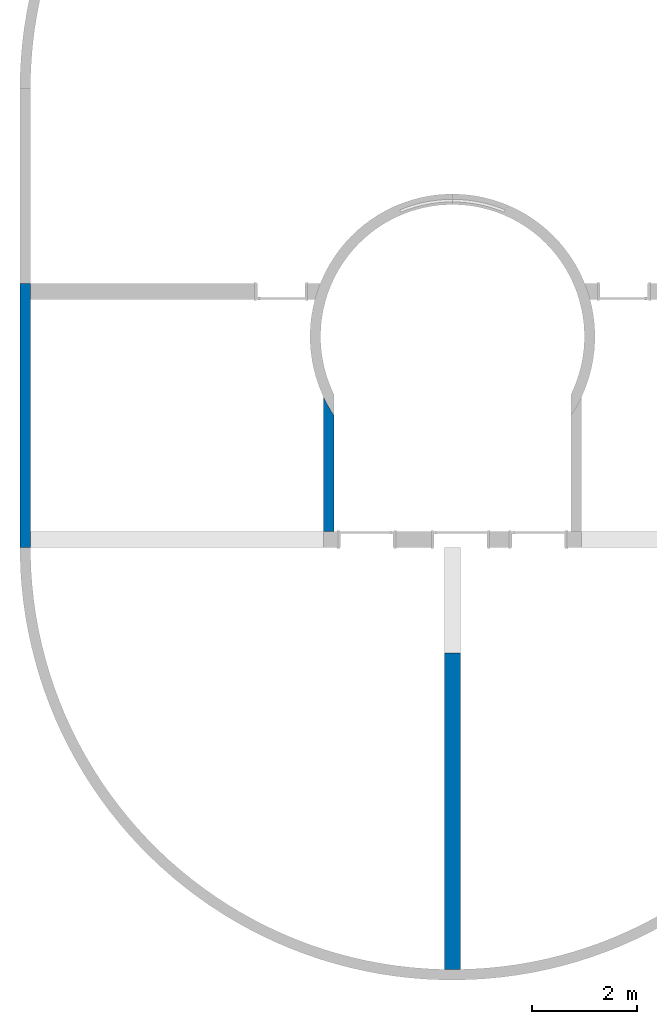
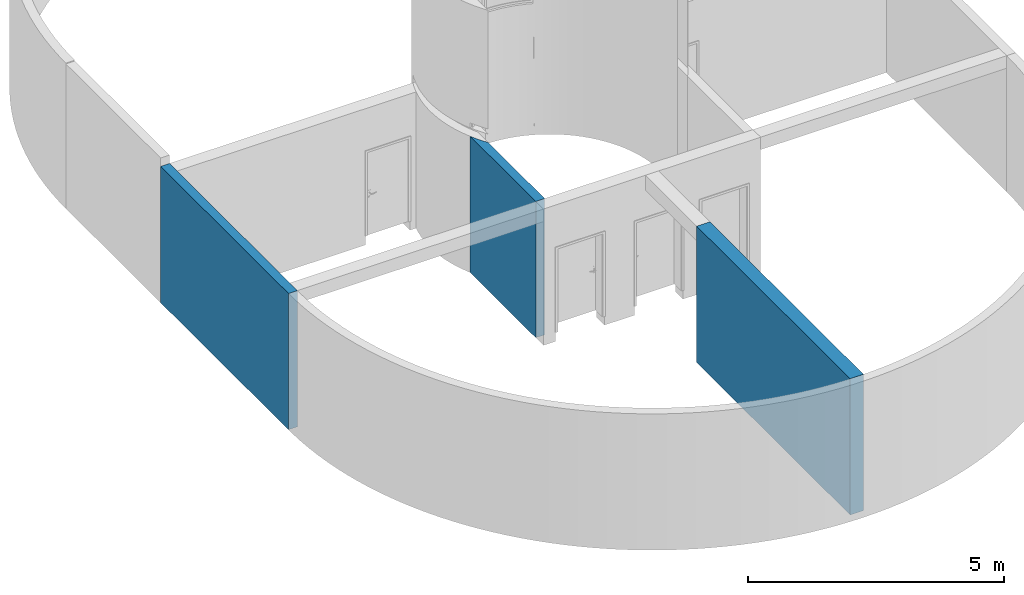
# One storey, part 2 of 8: 3 walls.
"""IFC4 building model written with IfcOpenShell, lengths in millimetres."""

from ifc_helpers import new_model, entity, si_unit, converted_unit, derived_unit, direction, frame, origin_with_axes, place, context, subcontext, project, spatial, polygons, material, constituent, constituent_set, type_object, element, save


model = new_model("IFC4")

# Units and contexts
model_context = context("Model", 3, precision=0.01, world=origin_with_axes(), true_north=direction((0.0, 1.0)))
body_context = subcontext(model_context, "Body", "Model", "MODEL_VIEW")
ifc_project = project(units=[si_unit("LENGTHUNIT", "METRE", prefix="MILLI"), si_unit("AREAUNIT", "SQUARE_METRE"), si_unit("VOLUMEUNIT", "CUBIC_METRE"), converted_unit("PLANEANGLEUNIT", "DEGREE", entity("IfcPlaneAngleMeasure", 0.0174532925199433), si_unit("PLANEANGLEUNIT", "RADIAN"), dimensions=[0, 0, 0, 0, 0, 0, 0]), converted_unit("TIMEUNIT", "Year", entity("IfcTimeMeasure", 31557600.0), si_unit("TIMEUNIT", "SECOND"), dimensions=[0, 0, 1, 0, 0, 0, 0]), si_unit("MASSUNIT", "GRAM", prefix="KILO"), si_unit("THERMODYNAMICTEMPERATUREUNIT", "DEGREE_CELSIUS"), si_unit("LUMINOUSINTENSITYUNIT", "LUMEN"), si_unit("ENERGYUNIT", "JOULE", prefix="MEGA"), derived_unit("THERMALCONDUCTANCEUNIT", [(si_unit("POWERUNIT", "WATT"), 1), (si_unit("LENGTHUNIT", "METRE"), -1), (si_unit("THERMODYNAMICTEMPERATUREUNIT", "KELVIN"), -1)]), derived_unit("SPECIFICHEATCAPACITYUNIT", [(si_unit("ENERGYUNIT", "JOULE"), 1), (si_unit("MASSUNIT", "GRAM", prefix="KILO"), -1), (si_unit("THERMODYNAMICTEMPERATUREUNIT", "KELVIN"), -1)]), derived_unit("MASSDENSITYUNIT", [(si_unit("MASSUNIT", "GRAM", prefix="KILO"), 1), (si_unit("VOLUMEUNIT", "CUBIC_METRE"), -1)])], contexts=[model_context])

# Site, building, storey
site_placement = place(None, origin_with_axes())
site = spatial("IfcSite", under=ifc_project, at=site_placement, Name="Exteriér", CompositionType="ELEMENT")
building_placement = place(site_placement, origin_with_axes())
building = spatial("IfcBuilding", under=site, at=building_placement, Name="Univerzitní lezecké centrum", CompositionType="ELEMENT")
storey_placement = place(building_placement, frame((0.0, 0.0, -3350.0), z_axis=(0.0, 0.0, 1.0), x_axis=(1.0, 0.0, 0.0)))
storey = spatial("IfcBuildingStorey", under=building, at=storey_placement, Name="1.PP", CompositionType="ELEMENT", Elevation=-3350.0)

# Walls
ifc_material_1 = material(Name="Beton vyztužený - vnější svislé kce")
ifc_constituent_1 = constituent(ifc_material_1, Name="Beton vyztužený - vnější svislé kce")
ifc_constituent_set_1 = constituent_set(constituents=[ifc_constituent_1], Name="!Vnější betonová stěna 200 mm")
wall_type_1 = type_object("IfcWallType", Name="!Vnější betonová stěna 200 mm 200", PredefinedType="NOTDEFINED")
wall_1_placement = place(storey_placement, frame((-5550.14835114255, 4700.000000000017, -220.0000000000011), z_axis=(0.0, 0.0, 1.0), x_axis=(0.0, -1.0, 0.0)))
element("IfcWall", 1, at=wall_1_placement, inside=storey, type_object=wall_type_1, material=ifc_constituent_set_1, Name="St02", PredefinedType="NOTDEFINED", context=body_context, shape_type="Tessellation", body=[
    polygons([(0.0, 0.0, 0.0), (4999.999999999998, 0.0, 0.0), (4999.999999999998, -200.0000000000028, 0.0), (0.0, -200.0000000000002, 0.0), (0.0, 0.0, 3250.000000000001), (4999.999999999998, 0.0, 3250.000000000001), (4999.999999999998, -200.000000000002, 3250.000000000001), (0.0, -200.0000000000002, 3250.000000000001)], [[[1, 2, 3, 4]], [[5, 6, 2, 1]], [[3, 2, 6, 7]], [[4, 3, 7, 8]], [[5, 1, 4, 8]], [[8, 7, 6, 5]]], closed=True),
])
ifc_material_2 = material(Name="Beton vyztužený - vnitřní svislé kce")
ifc_constituent_2 = constituent(ifc_material_2, Name="Beton vyztužený - vnitřní svislé kce")
ifc_constituent_set_2 = constituent_set(constituents=[ifc_constituent_2], Name="!Vnitřní betonová stěna 300 mm")
wall_type_2 = type_object("IfcWallType", Name="!Vnitřní betonová stěna 300 mm 300", PredefinedType="NOTDEFINED")
wall_2_placement = place(storey_placement, frame((2449.851648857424, -2449.739482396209, -220.0000000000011), z_axis=(0.0, 0.0, 1.0), x_axis=(0.0, -1.0, 0.0)))
element("IfcWall", 2, at=wall_2_placement, inside=storey, type_object=wall_type_2, material=ifc_constituent_set_2, Name="St04", PredefinedType="NOTDEFINED", context=body_context, shape_type="Tessellation", body=[
    polygons([(5849.244340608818, -150.0000000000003, 3250.000000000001), (5851.205728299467, 71.00669659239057, 3250.000000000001), (5849.10213988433, 149.9999999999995, 3250.000000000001), (-149.9999999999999, 150.0000000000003, 3250.000000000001), (-149.9999999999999, -149.9999999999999, 3250.000000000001), (5849.244340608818, -150.0000000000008, 0.0), (5851.205728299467, 71.00669659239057, 0.0), (5849.10213988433, 149.999999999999, 0.0), (-149.9999999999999, 149.9999999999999, 0.0), (-149.9999999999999, -149.9999999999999, 0.0)], [[[1, 2, 3, 4, 5]], [[2, 1, 6, 7]], [[8, 3, 2, 7]], [[3, 8, 9, 4]], [[5, 4, 9, 10]], [[6, 1, 5, 10]], [[7, 6, 10, 9, 8]]], closed=True),
])
ifc_constituent_3 = constituent(ifc_material_2, Name="Beton vyztužený - vnitřní svislé kce")
ifc_constituent_set_3 = constituent_set(constituents=[ifc_constituent_3], Name="!Vnitřní betonová stěna 200 mm")
wall_type_3 = type_object("IfcWallType", Name="!Vnitřní betonová stěna 200 mm 200", PredefinedType="NOTDEFINED")
wall_3_placement = place(storey_placement, frame((199.7521361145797, 2610.48075613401, -220.0000000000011), z_axis=(0.0, 0.0, 1.0), x_axis=(0.0, -1.0, 0.0)))
element("IfcWall", 3, at=wall_3_placement, inside=storey, type_object=wall_type_3, material=ifc_constituent_set_3, Name="St05", PredefinedType="NOTDEFINED", context=body_context, shape_type="Tessellation", body=[
    polygons([(402.8169563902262, -1.490117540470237e-05, 0.0), (402.8169563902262, -1.490117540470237e-05, 3250.0), (2610.480756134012, -1.781994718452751e-06, 3250.0), (2610.480756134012, -1.781994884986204e-06, 0.0), (334.7065560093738, -45.31479193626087, 3250.0), (334.7065560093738, -45.31479193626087, 0.0), (87.16153950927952, -180.0079610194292, 3250.0), (47.01301357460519, -199.9999999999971, 3250.000000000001), (2610.480756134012, -199.9999999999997, 3250.0), (186.2549562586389, -131.0233630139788, 3250.0), (2610.480756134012, -199.9999999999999, 0.0), (47.01301357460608, -199.9999999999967, 0.0), (87.16153950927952, -180.0079610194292, 0.0), (186.2549562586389, -131.0233630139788, 0.0)], [[[1, 2, 3, 4]], [[5, 2, 1, 6]], [[7, 8, 9, 3, 2, 5, 10]], [[4, 3, 9, 11]], [[6, 1, 4, 11, 12, 13, 14]], [[10, 5, 6, 14]], [[8, 7, 13, 12]], [[8, 12, 11, 9]], [[7, 10, 14, 13]]], closed=True),
])

save(model, "model.ifc")
